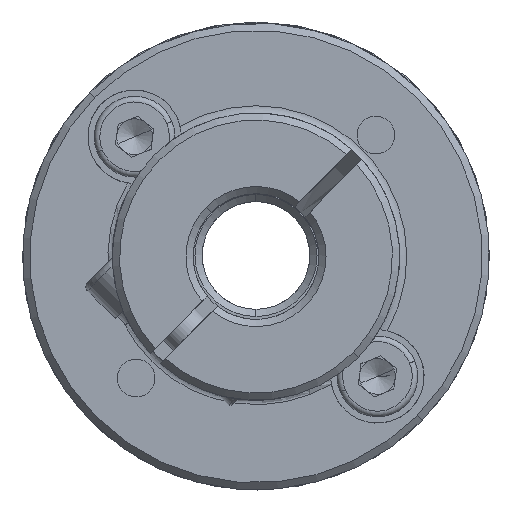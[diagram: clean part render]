
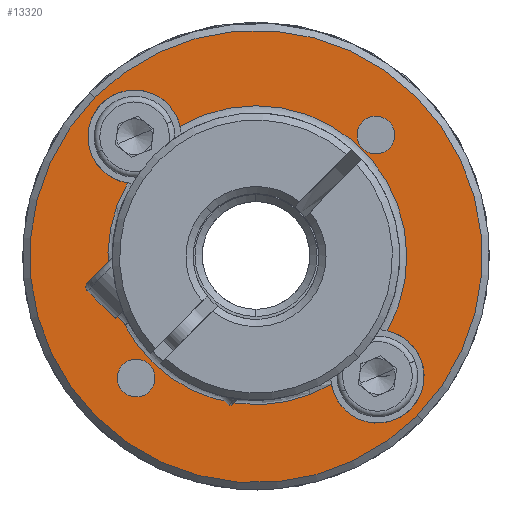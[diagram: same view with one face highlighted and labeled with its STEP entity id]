
A CAD part, front view. The second image highlights one B-rep face of the part: STEP entity #13320.
In plain terms, the highlighted planar face has unit normal (0, -1, 0).
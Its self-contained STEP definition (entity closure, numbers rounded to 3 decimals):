
#109 = AXIS2_PLACEMENT_3D ( 'NONE', #14680, #11774, #13226 ) ;
#171 = AXIS2_PLACEMENT_3D ( 'NONE', #15969, #8753, #2658 ) ;
#179 = DIRECTION ( 'NONE',  ( -0.712, 0., 0.702 ) ) ;
#362 = DIRECTION ( 'NONE',  ( -0.712, 0., 0.702 ) ) ;
#527 = CIRCLE ( 'NONE', #2771, 1.05 ) ;
#565 = DIRECTION ( 'NONE',  ( -0.712, 0., 0.702 ) ) ;
#637 = VERTEX_POINT ( 'NONE', #6500 ) ;
#799 = VERTEX_POINT ( 'NONE', #5577 ) ;
#831 = CIRCLE ( 'NONE', #13281, 2.6 ) ;
#1056 = CARTESIAN_POINT ( 'NONE',  ( -4.076, -18.979, 25.938 ) ) ;
#1079 = ORIENTED_EDGE ( 'NONE', *, *, #13222, .T. ) ;
#1227 = CARTESIAN_POINT ( 'NONE',  ( -8.304, -18.979, 33.196 ) ) ;
#1413 = AXIS2_PLACEMENT_3D ( 'NONE', #17529, #14540, #5434 ) ;
#1562 = DIRECTION ( 'NONE',  ( 0., 1., 0. ) ) ;
#1753 = CIRCLE ( 'NONE', #10270, 2.6 ) ;
#1968 = EDGE_CURVE ( 'NONE', #3210, #12869, #17830, .T. ) ;
#2147 = DIRECTION ( 'NONE',  ( 0., 1., 0. ) ) ;
#2380 = FACE_BOUND ( 'NONE', #15702, .T. ) ;
#2658 = DIRECTION ( 'NONE',  ( -0.712, 0., 0.702 ) ) ;
#2769 = VERTEX_POINT ( 'NONE', #5715 ) ;
#2771 = AXIS2_PLACEMENT_3D ( 'NONE', #4395, #4324, #14805 ) ;
#3164 = EDGE_CURVE ( 'NONE', #637, #16508, #1753, .T. ) ;
#3210 = VERTEX_POINT ( 'NONE', #14851 ) ;
#3824 = EDGE_CURVE ( 'NONE', #13957, #799, #7787, .T. ) ;
#4111 = DIRECTION ( 'NONE',  ( -0.712, 0., 0.702 ) ) ;
#4324 = DIRECTION ( 'NONE',  ( 0., 1., 0. ) ) ;
#4395 = CARTESIAN_POINT ( 'NONE',  ( -10.749, -18.979, 19.176 ) ) ;
#4515 = ORIENTED_EDGE ( 'NONE', *, *, #3824, .T. ) ;
#4525 = VERTEX_POINT ( 'NONE', #5859 ) ;
#4607 = EDGE_CURVE ( 'NONE', #17496, #8208, #16424, .T. ) ;
#4771 = EDGE_CURVE ( 'NONE', #799, #13957, #16885, .T. ) ;
#5434 = DIRECTION ( 'NONE',  ( -0.712, 0., 0.702 ) ) ;
#5543 = CARTESIAN_POINT ( 'NONE',  ( -11.496, -18.979, 19.914 ) ) ;
#5577 = CARTESIAN_POINT ( 'NONE',  ( 4.892, -18.979, 17.087 ) ) ;
#5620 = EDGE_CURVE ( 'NONE', #16508, #2769, #16146, .T. ) ;
#5687 = DIRECTION ( 'NONE',  ( -0.712, 0., 0.702 ) ) ;
#5713 = DIRECTION ( 'NONE',  ( -0.712, 0., 0.702 ) ) ;
#5715 = CARTESIAN_POINT ( 'NONE',  ( 3.238, -18.979, 21.805 ) ) ;
#5859 = CARTESIAN_POINT ( 'NONE',  ( 4.536, -18.979, 17.438 ) ) ;
#5995 = AXIS2_PLACEMENT_3D ( 'NONE', #8997, #1562, #179 ) ;
#6500 = CARTESIAN_POINT ( 'NONE',  ( -12.688, -18.979, 34.437 ) ) ;
#6518 = CIRCLE ( 'NONE', #14630, 1.05 ) ;
#6622 = FACE_BOUND ( 'NONE', #11931, .T. ) ;
#6883 = FACE_BOUND ( 'NONE', #8826, .T. ) ;
#7153 = ORIENTED_EDGE ( 'NONE', *, *, #5620, .T. ) ;
#7412 = ORIENTED_EDGE ( 'NONE', *, *, #10592, .T. ) ;
#7444 = CARTESIAN_POINT ( 'NONE',  ( 2.686, -18.979, 19.264 ) ) ;
#7787 = CIRCLE ( 'NONE', #17158, 12.6 ) ;
#7989 = CARTESIAN_POINT ( 'NONE',  ( -4.076, -18.979, 25.938 ) ) ;
#8208 = VERTEX_POINT ( 'NONE', #10538 ) ;
#8647 = AXIS2_PLACEMENT_3D ( 'NONE', #10858, #15216, #362 ) ;
#8753 = DIRECTION ( 'NONE',  ( 0., -1., 0. ) ) ;
#8826 = EDGE_LOOP ( 'NONE', ( #17781, #16181 ) ) ;
#8997 = CARTESIAN_POINT ( 'NONE',  ( -4.076, -18.979, 25.938 ) ) ;
#9283 = ORIENTED_EDGE ( 'NONE', *, *, #3164, .T. ) ;
#10270 = AXIS2_PLACEMENT_3D ( 'NONE', #14469, #13019, #15961 ) ;
#10475 = CARTESIAN_POINT ( 'NONE',  ( -11.23, -18.979, 30.041 ) ) ;
#10538 = CARTESIAN_POINT ( 'NONE',  ( 1.85, -18.979, 33.437 ) ) ;
#10592 = EDGE_CURVE ( 'NONE', #2769, #4525, #831, .T. ) ;
#10858 = CARTESIAN_POINT ( 'NONE',  ( 2.598, -18.979, 32.699 ) ) ;
#11029 = CARTESIAN_POINT ( 'NONE',  ( -10.002, -18.979, 18.439 ) ) ;
#11385 = DIRECTION ( 'NONE',  ( -0.712, 0., 0.702 ) ) ;
#11462 = ORIENTED_EDGE ( 'NONE', *, *, #4607, .T. ) ;
#11592 = CIRCLE ( 'NONE', #14465, 1.05 ) ;
#11642 = EDGE_CURVE ( 'NONE', #12869, #637, #15879, .T. ) ;
#11774 = DIRECTION ( 'NONE',  ( 0., 1., 0. ) ) ;
#11931 = EDGE_LOOP ( 'NONE', ( #11462, #1079 ) ) ;
#12546 = DIRECTION ( 'NONE',  ( -0.712, 0., 0.702 ) ) ;
#12869 = VERTEX_POINT ( 'NONE', #10475 ) ;
#12885 = AXIS2_PLACEMENT_3D ( 'NONE', #13994, #14061, #12546 ) ;
#12961 = ORIENTED_EDGE ( 'NONE', *, *, #4771, .T. ) ;
#13019 = DIRECTION ( 'NONE',  ( 0., 1., 0. ) ) ;
#13222 = EDGE_CURVE ( 'NONE', #8208, #17496, #11592, .T. ) ;
#13226 = DIRECTION ( 'NONE',  ( -0.712, 0., 0.702 ) ) ;
#13281 = AXIS2_PLACEMENT_3D ( 'NONE', #7444, #13435, #5713 ) ;
#13309 = AXIS2_PLACEMENT_3D ( 'NONE', #7989, #17081, #565 ) ;
#13320 = ADVANCED_FACE ( 'NONE', ( #18633, #6622, #6883, #2380 ), #19190, .T. ) ;
#13435 = DIRECTION ( 'NONE',  ( 0., 1., 0. ) ) ;
#13725 = VERTEX_POINT ( 'NONE', #11029 ) ;
#13957 = VERTEX_POINT ( 'NONE', #19278 ) ;
#13994 = CARTESIAN_POINT ( 'NONE',  ( -4.076, -18.979, 25.938 ) ) ;
#14061 = DIRECTION ( 'NONE',  ( 0., 1., 0. ) ) ;
#14249 = ORIENTED_EDGE ( 'NONE', *, *, #11642, .T. ) ;
#14465 = AXIS2_PLACEMENT_3D ( 'NONE', #17268, #2147, #11385 ) ;
#14469 = CARTESIAN_POINT ( 'NONE',  ( -10.837, -18.979, 32.611 ) ) ;
#14540 = DIRECTION ( 'NONE',  ( 0., 1., 0. ) ) ;
#14630 = AXIS2_PLACEMENT_3D ( 'NONE', #19050, #19178, #5687 ) ;
#14655 = DIRECTION ( 'NONE',  ( 0., -1., 0. ) ) ;
#14680 = CARTESIAN_POINT ( 'NONE',  ( 2.686, -18.979, 19.264 ) ) ;
#14805 = DIRECTION ( 'NONE',  ( -0.712, 0., 0.702 ) ) ;
#14851 = CARTESIAN_POINT ( 'NONE',  ( 0.121, -18.979, 18.838 ) ) ;
#15216 = DIRECTION ( 'NONE',  ( 0., 1., 0. ) ) ;
#15702 = EDGE_LOOP ( 'NONE', ( #7412, #17313, #17145, #14249, #9283, #7153 ) ) ;
#15879 = CIRCLE ( 'NONE', #1413, 2.6 ) ;
#15961 = DIRECTION ( 'NONE',  ( -0.712, 0., 0.702 ) ) ;
#15969 = CARTESIAN_POINT ( 'NONE',  ( -4.076, -18.979, 25.938 ) ) ;
#15972 = VERTEX_POINT ( 'NONE', #5543 ) ;
#16146 = CIRCLE ( 'NONE', #5995, 8.4 ) ;
#16181 = ORIENTED_EDGE ( 'NONE', *, *, #16952, .T. ) ;
#16346 = EDGE_LOOP ( 'NONE', ( #12961, #4515 ) ) ;
#16424 = CIRCLE ( 'NONE', #8647, 1.05 ) ;
#16508 = VERTEX_POINT ( 'NONE', #1227 ) ;
#16560 = CIRCLE ( 'NONE', #109, 2.6 ) ;
#16885 = CIRCLE ( 'NONE', #13309, 12.6 ) ;
#16952 = EDGE_CURVE ( 'NONE', #15972, #13725, #6518, .T. ) ;
#17081 = DIRECTION ( 'NONE',  ( 0., -1., 0. ) ) ;
#17145 = ORIENTED_EDGE ( 'NONE', *, *, #1968, .T. ) ;
#17158 = AXIS2_PLACEMENT_3D ( 'NONE', #1056, #14655, #4111 ) ;
#17268 = CARTESIAN_POINT ( 'NONE',  ( 2.598, -18.979, 32.699 ) ) ;
#17313 = ORIENTED_EDGE ( 'NONE', *, *, #18182, .T. ) ;
#17496 = VERTEX_POINT ( 'NONE', #18764 ) ;
#17529 = CARTESIAN_POINT ( 'NONE',  ( -10.837, -18.979, 32.611 ) ) ;
#17781 = ORIENTED_EDGE ( 'NONE', *, *, #18291, .T. ) ;
#17830 = CIRCLE ( 'NONE', #12885, 8.247 ) ;
#18182 = EDGE_CURVE ( 'NONE', #4525, #3210, #16560, .T. ) ;
#18291 = EDGE_CURVE ( 'NONE', #13725, #15972, #527, .T. ) ;
#18633 = FACE_OUTER_BOUND ( 'NONE', #16346, .T. ) ;
#18764 = CARTESIAN_POINT ( 'NONE',  ( 3.345, -18.979, 31.962 ) ) ;
#19050 = CARTESIAN_POINT ( 'NONE',  ( -10.749, -18.979, 19.176 ) ) ;
#19178 = DIRECTION ( 'NONE',  ( 0., 1., 0. ) ) ;
#19190 = PLANE ( 'NONE',  #171 ) ;
#19278 = CARTESIAN_POINT ( 'NONE',  ( -13.043, -18.979, 34.789 ) ) ;
